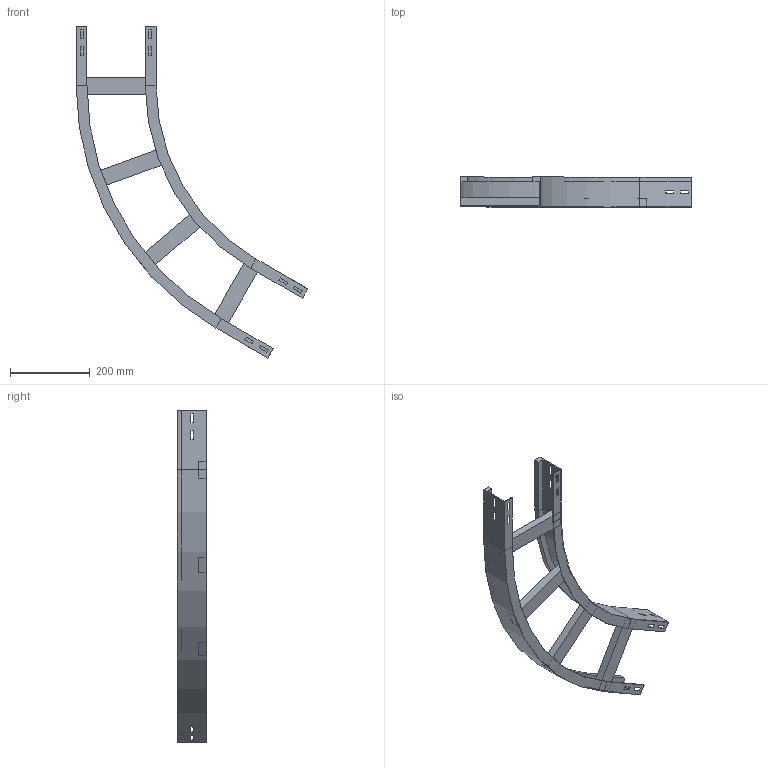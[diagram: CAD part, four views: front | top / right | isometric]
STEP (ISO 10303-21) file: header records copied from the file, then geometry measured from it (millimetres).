
FILE_DESCRIPTION (( 'STEP AP214' ), '1' );
FILE_NAME ('13B5C200.step', '2025-02-21T15:20:29', ( '' ), ( '' ), 'SwSTEP 2.0', 'SolidWorks 2023', '' );
FILE_SCHEMA (( 'AUTOMOTIVE_DESIGN' ));
Length unit declared in the file: millimetre
Products named in the file (4): A2_LONGH.ESTERNO 60°_H75_R500+200; TRAVERSINO_200; 13B5C200; A2_LONGH.INTERNO 60°_H75_R500
Assembly tree (6 placements, depth 2):
  13B5C200
    A2_LONGH.INTERNO 60°_H75_R500
    A2_LONGH.ESTERNO 60°_H75_R500+200
    TRAVERSINO_200  x4
Bounding box: 579.9 x 75 x 831.22 mm (x, y, z)
Volume: 1357913.7 mm3; surface area: 538006.3 mm2
Topology: 6 solids, 6 shells, 140 faces, 352 edges, 224 vertices
Faces by surface type: plane 132, cylinder 8
Entity records: 3829 total; most frequent: CARTESIAN_POINT 647, ORIENTED_EDGE 632, DIRECTION 594, EDGE_CURVE 316, VECTOR 300, LINE 300, VERTEX_POINT 200, EDGE_LOOP 154
